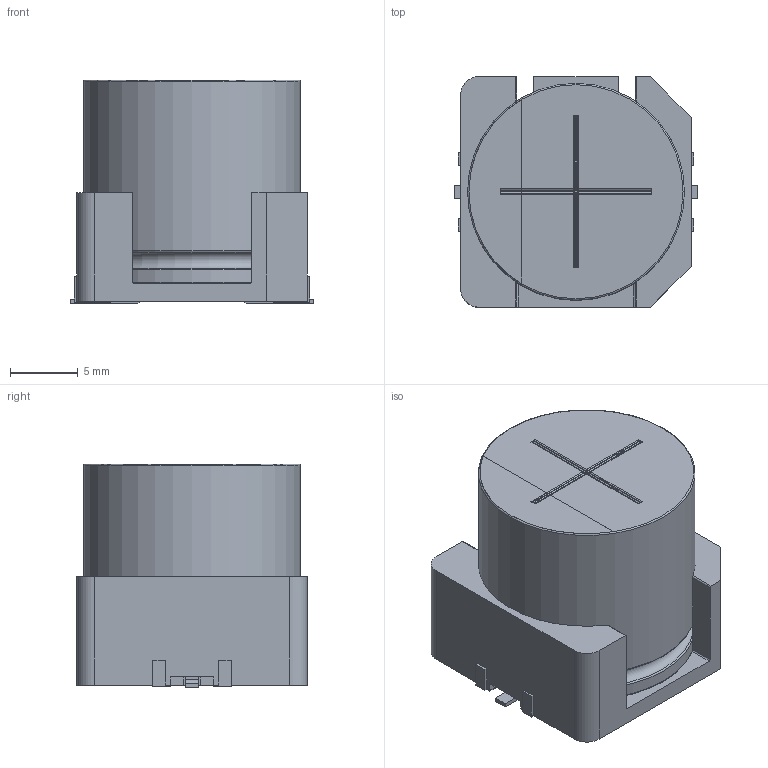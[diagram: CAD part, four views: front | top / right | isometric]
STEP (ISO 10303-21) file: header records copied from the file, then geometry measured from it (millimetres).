
FILE_DESCRIPTION(/* description */ (''),/* implementation_level */ '2;1');
FILE_NAME(/* name */ 'φ16x16.5L_耐振品_1.stp',/* time_stamp */ '2019-05-21T10:44:32+09:00',/* author */ (''),/* organization */ (''),/* preprocessor_version */ 'ST-DEVELOPER v16.7',/* originating_system */ 'SIEMENS PLM Software NX 1851',/* authorisation */ '');
FILE_SCHEMA (('AUTOMOTIVE_DESIGN { 1 0 10303 214 3 1 1 1 }'));
Length unit declared in the file: millimetre
Products named in the file (1): 16x16.5
Bounding box: 18 x 17 x 16.5 mm (x, y, z)
Volume: 3725.9 mm3; surface area: 2563.9 mm2
Topology: 9 solids, 9 shells, 184 faces, 459 edges, 294 vertices
Faces by surface type: plane 120, cylinder 51, torus 5, sphere 4, bspline 4
Full cylindrical faces by diameter (mm): 1.5 x4, 16 x2
Entity records: 5545 total; most frequent: CARTESIAN_POINT 1107, DIRECTION 898, ORIENTED_EDGE 884, EDGE_CURVE 442, LINE 332, VECTOR 332, VERTEX_POINT 292, AXIS2_PLACEMENT_3D 283
